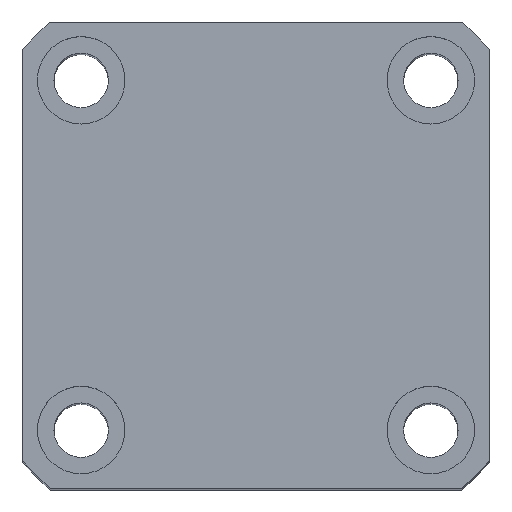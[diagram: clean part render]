
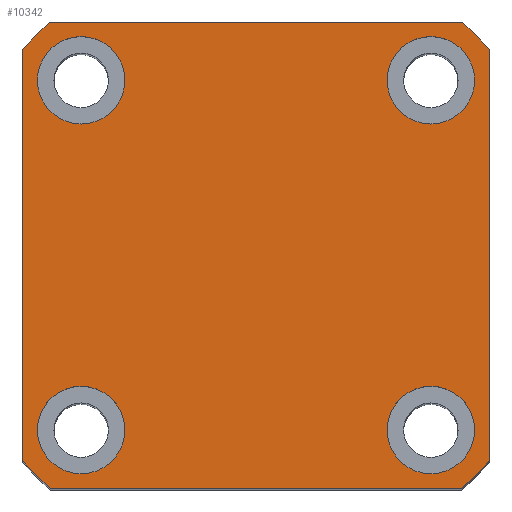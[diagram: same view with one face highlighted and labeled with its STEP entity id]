
A CAD part, top view. The second image highlights one B-rep face of the part: STEP entity #10342.
In plain terms, the highlighted planar face has unit normal (0, 0, 1) as drawn and (1, 0, 0) by its records, which use the part's own axes.
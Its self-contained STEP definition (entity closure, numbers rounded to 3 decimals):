
#118 = ORIENTED_EDGE ( 'NONE', *, *, #6686, .F. ) ;
#196 = CIRCLE ( 'NONE', #319, 4.5 ) ;
#264 = VERTEX_POINT ( 'NONE', #10545 ) ;
#274 = CARTESIAN_POINT ( 'NONE',  ( 100., 18., 18. ) ) ;
#319 = AXIS2_PLACEMENT_3D ( 'NONE', #3215, #3203, #3183 ) ;
#408 = EDGE_LOOP ( 'NONE', ( #2908, #3184 ) ) ;
#507 = EDGE_CURVE ( 'NONE', #8169, #6171, #6158, .T. ) ;
#540 = CARTESIAN_POINT ( 'NONE',  ( 100., -18., 18. ) ) ;
#718 = EDGE_CURVE ( 'NONE', #9140, #1053, #196, .T. ) ;
#856 = CIRCLE ( 'NONE', #5338, 4.5 ) ;
#860 = CARTESIAN_POINT ( 'NONE',  ( 100., -24., -21.166 ) ) ;
#893 = AXIS2_PLACEMENT_3D ( 'NONE', #2655, #8420, #3501 ) ;
#1053 = VERTEX_POINT ( 'NONE', #1503 ) ;
#1141 = CARTESIAN_POINT ( 'NONE',  ( 100., 18., -18. ) ) ;
#1180 = DIRECTION ( 'NONE',  ( 0., 0., -1. ) ) ;
#1329 = CARTESIAN_POINT ( 'NONE',  ( 100., 0., 0. ) ) ;
#1347 = VERTEX_POINT ( 'NONE', #860 ) ;
#1404 = EDGE_CURVE ( 'NONE', #2887, #3102, #1888, .T. ) ;
#1458 = AXIS2_PLACEMENT_3D ( 'NONE', #1329, #3039, #8819 ) ;
#1471 = DIRECTION ( 'NONE',  ( 0., 0., -1. ) ) ;
#1475 = ORIENTED_EDGE ( 'NONE', *, *, #1995, .F. ) ;
#1503 = CARTESIAN_POINT ( 'NONE',  ( 100., 18., 22.5 ) ) ;
#1551 = DIRECTION ( 'NONE',  ( 0., -1., 0. ) ) ;
#1708 = DIRECTION ( 'NONE',  ( 0., 0., -1. ) ) ;
#1720 = FACE_BOUND ( 'NONE', #408, .T. ) ;
#1745 = VERTEX_POINT ( 'NONE', #4430 ) ;
#1749 = CARTESIAN_POINT ( 'NONE',  ( 100., 24., 24. ) ) ;
#1777 = CARTESIAN_POINT ( 'NONE',  ( 100., 18., -18. ) ) ;
#1888 = CIRCLE ( 'NONE', #2904, 4.5 ) ;
#1950 = VERTEX_POINT ( 'NONE', #8974 ) ;
#1995 = EDGE_CURVE ( 'NONE', #3102, #2887, #5868, .T. ) ;
#2049 = DIRECTION ( 'NONE',  ( 0., 0., -1. ) ) ;
#2127 = DIRECTION ( 'NONE',  ( 0., 0., -1. ) ) ;
#2318 = EDGE_LOOP ( 'NONE', ( #3699, #118 ) ) ;
#2328 = EDGE_CURVE ( 'NONE', #6171, #6304, #8865, .T. ) ;
#2497 = ORIENTED_EDGE ( 'NONE', *, *, #718, .F. ) ;
#2507 = AXIS2_PLACEMENT_3D ( 'NONE', #1141, #7092, #2049 ) ;
#2544 = CARTESIAN_POINT ( 'NONE',  ( 100., 21.166, 24. ) ) ;
#2647 = DIRECTION ( 'NONE',  ( 0., 0., -1. ) ) ;
#2655 = CARTESIAN_POINT ( 'NONE',  ( 100., -18., 18. ) ) ;
#2808 = CARTESIAN_POINT ( 'NONE',  ( 100., -24., 24. ) ) ;
#2871 = EDGE_CURVE ( 'NONE', #1347, #264, #3864, .T. ) ;
#2887 = VERTEX_POINT ( 'NONE', #8323 ) ;
#2904 = AXIS2_PLACEMENT_3D ( 'NONE', #6080, #6067, #6219 ) ;
#2908 = ORIENTED_EDGE ( 'NONE', *, *, #4620, .F. ) ;
#3039 = DIRECTION ( 'NONE',  ( 1., 0., 0. ) ) ;
#3102 = VERTEX_POINT ( 'NONE', #9467 ) ;
#3116 = DIRECTION ( 'NONE',  ( 1., 0., 0. ) ) ;
#3183 = DIRECTION ( 'NONE',  ( 0., 0., -1. ) ) ;
#3184 = ORIENTED_EDGE ( 'NONE', *, *, #6887, .F. ) ;
#3203 = DIRECTION ( 'NONE',  ( 1., 0., 0. ) ) ;
#3215 = CARTESIAN_POINT ( 'NONE',  ( 100., 18., 18. ) ) ;
#3217 = CIRCLE ( 'NONE', #2507, 4.5 ) ;
#3297 = ORIENTED_EDGE ( 'NONE', *, *, #507, .T. ) ;
#3336 = CARTESIAN_POINT ( 'NONE',  ( 100., 18., -13.5 ) ) ;
#3370 = EDGE_CURVE ( 'NONE', #264, #8169, #6866, .T. ) ;
#3501 = DIRECTION ( 'NONE',  ( 0., 0., -1. ) ) ;
#3541 = AXIS2_PLACEMENT_3D ( 'NONE', #540, #6576, #1471 ) ;
#3665 = DIRECTION ( 'NONE',  ( 0., 0., -1. ) ) ;
#3699 = ORIENTED_EDGE ( 'NONE', *, *, #9591, .F. ) ;
#3726 = FACE_OUTER_BOUND ( 'NONE', #7543, .T. ) ;
#3864 = CIRCLE ( 'NONE', #6598, 32. ) ;
#3931 = DIRECTION ( 'NONE',  ( 0., 1., 0. ) ) ;
#3957 = EDGE_CURVE ( 'NONE', #10510, #7668, #6995, .T. ) ;
#3991 = FACE_BOUND ( 'NONE', #10230, .T. ) ;
#4057 = EDGE_CURVE ( 'NONE', #6304, #10510, #6743, .T. ) ;
#4069 = VERTEX_POINT ( 'NONE', #3336 ) ;
#4156 = VERTEX_POINT ( 'NONE', #9943 ) ;
#4180 = CARTESIAN_POINT ( 'NONE',  ( 100., 0., 0. ) ) ;
#4274 = EDGE_LOOP ( 'NONE', ( #4614, #1475 ) ) ;
#4362 = VECTOR ( 'NONE', #3931, 1000. ) ;
#4421 = CARTESIAN_POINT ( 'NONE',  ( 100., 24., -24. ) ) ;
#4430 = CARTESIAN_POINT ( 'NONE',  ( 100., -18., 22.5 ) ) ;
#4614 = ORIENTED_EDGE ( 'NONE', *, *, #1404, .F. ) ;
#4620 = EDGE_CURVE ( 'NONE', #9917, #1745, #8952, .T. ) ;
#4632 = CARTESIAN_POINT ( 'NONE',  ( 100., 0., 0. ) ) ;
#4738 = AXIS2_PLACEMENT_3D ( 'NONE', #10403, #7688, #1708 ) ;
#4742 = ORIENTED_EDGE ( 'NONE', *, *, #9618, .F. ) ;
#4767 = VECTOR ( 'NONE', #1551, 1000. ) ;
#4854 = DIRECTION ( 'NONE',  ( 1., 0., 0. ) ) ;
#5026 = DIRECTION ( 'NONE',  ( 0., 0., -1. ) ) ;
#5097 = CARTESIAN_POINT ( 'NONE',  ( 100., -18., 13.5 ) ) ;
#5210 = ORIENTED_EDGE ( 'NONE', *, *, #3957, .T. ) ;
#5338 = AXIS2_PLACEMENT_3D ( 'NONE', #274, #6314, #1180 ) ;
#5341 = CARTESIAN_POINT ( 'NONE',  ( 100., -21.166, 24. ) ) ;
#5695 = EDGE_CURVE ( 'NONE', #1950, #1347, #7112, .T. ) ;
#5868 = CIRCLE ( 'NONE', #4738, 4.5 ) ;
#6067 = DIRECTION ( 'NONE',  ( 1., 0., 0. ) ) ;
#6080 = CARTESIAN_POINT ( 'NONE',  ( 100., -18., -18. ) ) ;
#6117 = DIRECTION ( 'NONE',  ( 0., 0., -1. ) ) ;
#6122 = DIRECTION ( 'NONE',  ( 1., 0., 0. ) ) ;
#6136 = CARTESIAN_POINT ( 'NONE',  ( 100., 0., 0. ) ) ;
#6158 = CIRCLE ( 'NONE', #9702, 32. ) ;
#6171 = VERTEX_POINT ( 'NONE', #10068 ) ;
#6219 = DIRECTION ( 'NONE',  ( 0., 0., -1. ) ) ;
#6289 = CARTESIAN_POINT ( 'NONE',  ( 100., 24., 21.166 ) ) ;
#6304 = VERTEX_POINT ( 'NONE', #6289 ) ;
#6314 = DIRECTION ( 'NONE',  ( 1., 0., 0. ) ) ;
#6340 = ORIENTED_EDGE ( 'NONE', *, *, #4057, .T. ) ;
#6576 = DIRECTION ( 'NONE',  ( 1., 0., 0. ) ) ;
#6598 = AXIS2_PLACEMENT_3D ( 'NONE', #4632, #4854, #2127 ) ;
#6601 = ORIENTED_EDGE ( 'NONE', *, *, #2871, .T. ) ;
#6686 = EDGE_CURVE ( 'NONE', #4069, #4156, #8313, .T. ) ;
#6743 = CIRCLE ( 'NONE', #10729, 32. ) ;
#6761 = VECTOR ( 'NONE', #9930, 1000. ) ;
#6829 = CIRCLE ( 'NONE', #3541, 4.5 ) ;
#6866 = LINE ( 'NONE', #4421, #4362 ) ;
#6887 = EDGE_CURVE ( 'NONE', #1745, #9917, #6829, .T. ) ;
#6995 = LINE ( 'NONE', #1749, #4767 ) ;
#7002 = CARTESIAN_POINT ( 'NONE',  ( 100., 18., 13.5 ) ) ;
#7092 = DIRECTION ( 'NONE',  ( 1., 0., 0. ) ) ;
#7112 = LINE ( 'NONE', #2808, #10783 ) ;
#7138 = AXIS2_PLACEMENT_3D ( 'NONE', #1777, #7640, #2647 ) ;
#7237 = ORIENTED_EDGE ( 'NONE', *, *, #3370, .T. ) ;
#7543 = EDGE_LOOP ( 'NONE', ( #7237, #3297, #7718, #6340, #5210, #10529, #9508, #6601 ) ) ;
#7640 = DIRECTION ( 'NONE',  ( 1., 0., 0. ) ) ;
#7668 = VERTEX_POINT ( 'NONE', #5341 ) ;
#7688 = DIRECTION ( 'NONE',  ( 1., 0., 0. ) ) ;
#7718 = ORIENTED_EDGE ( 'NONE', *, *, #2328, .T. ) ;
#7795 = CARTESIAN_POINT ( 'NONE',  ( 100., 21.166, -24. ) ) ;
#8049 = PLANE ( 'NONE',  #1458 ) ;
#8077 = CARTESIAN_POINT ( 'NONE',  ( 100., 0., 0. ) ) ;
#8130 = FACE_BOUND ( 'NONE', #2318, .T. ) ;
#8169 = VERTEX_POINT ( 'NONE', #7795 ) ;
#8258 = AXIS2_PLACEMENT_3D ( 'NONE', #8077, #3116, #8853 ) ;
#8313 = CIRCLE ( 'NONE', #7138, 4.5 ) ;
#8323 = CARTESIAN_POINT ( 'NONE',  ( 100., -18., -22.5 ) ) ;
#8420 = DIRECTION ( 'NONE',  ( 1., 0., 0. ) ) ;
#8493 = CARTESIAN_POINT ( 'NONE',  ( 100., 24., 24. ) ) ;
#8819 = DIRECTION ( 'NONE',  ( 0., 0., -1. ) ) ;
#8853 = DIRECTION ( 'NONE',  ( 0., 0., -1. ) ) ;
#8865 = LINE ( 'NONE', #8493, #6761 ) ;
#8952 = CIRCLE ( 'NONE', #893, 4.5 ) ;
#8974 = CARTESIAN_POINT ( 'NONE',  ( 100., -24., 21.166 ) ) ;
#9140 = VERTEX_POINT ( 'NONE', #7002 ) ;
#9317 = EDGE_CURVE ( 'NONE', #7668, #1950, #10695, .T. ) ;
#9467 = CARTESIAN_POINT ( 'NONE',  ( 100., -18., -13.5 ) ) ;
#9508 = ORIENTED_EDGE ( 'NONE', *, *, #5695, .T. ) ;
#9591 = EDGE_CURVE ( 'NONE', #4156, #4069, #3217, .T. ) ;
#9618 = EDGE_CURVE ( 'NONE', #1053, #9140, #856, .T. ) ;
#9702 = AXIS2_PLACEMENT_3D ( 'NONE', #6136, #6122, #6117 ) ;
#9853 = DIRECTION ( 'NONE',  ( 1., 0., 0. ) ) ;
#9917 = VERTEX_POINT ( 'NONE', #5097 ) ;
#9930 = DIRECTION ( 'NONE',  ( 0., 0., 1. ) ) ;
#9943 = CARTESIAN_POINT ( 'NONE',  ( 100., 18., -22.5 ) ) ;
#10068 = CARTESIAN_POINT ( 'NONE',  ( 100., 24., -21.166 ) ) ;
#10198 = FACE_BOUND ( 'NONE', #4274, .T. ) ;
#10230 = EDGE_LOOP ( 'NONE', ( #2497, #4742 ) ) ;
#10342 = ADVANCED_FACE ( 'NONE', ( #10198, #1720, #8130, #3991, #3726 ), #8049, .T. ) ;
#10403 = CARTESIAN_POINT ( 'NONE',  ( 100., -18., -18. ) ) ;
#10510 = VERTEX_POINT ( 'NONE', #2544 ) ;
#10529 = ORIENTED_EDGE ( 'NONE', *, *, #9317, .T. ) ;
#10545 = CARTESIAN_POINT ( 'NONE',  ( 100., -21.166, -24. ) ) ;
#10695 = CIRCLE ( 'NONE', #8258, 32. ) ;
#10729 = AXIS2_PLACEMENT_3D ( 'NONE', #4180, #9853, #5026 ) ;
#10783 = VECTOR ( 'NONE', #3665, 1000. ) ;
